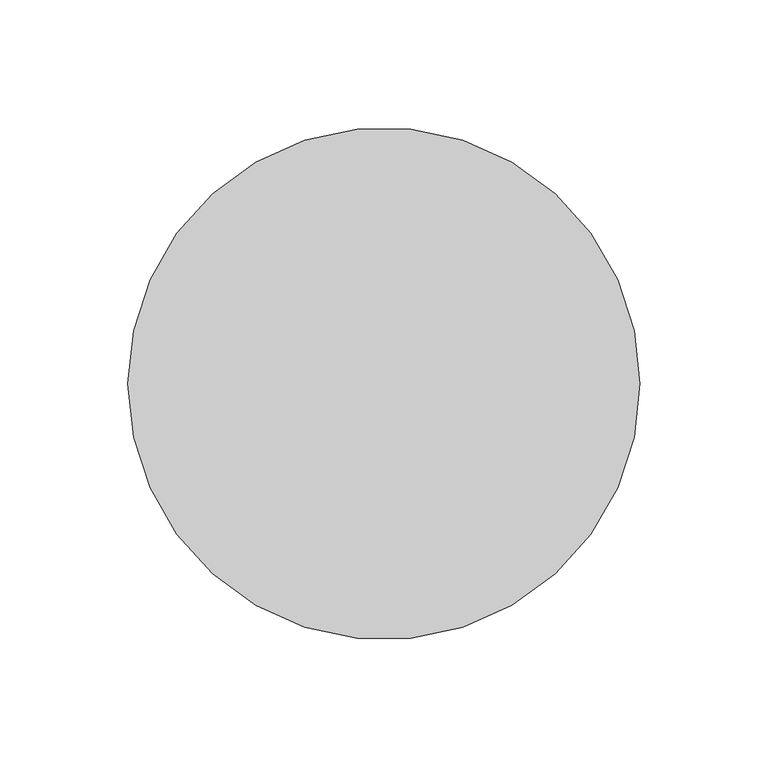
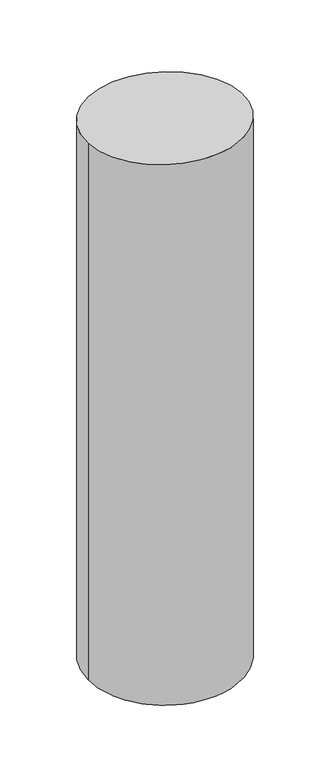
"""IFC4 building model written with IfcOpenShell, lengths in millimetres: member geometry, 矩形竖梃 : 圆瓦."""

from ifc_helpers import new_model, si_unit, frame, origin, origin_with_axes, place, context, project, spatial, circle_curve, ellipse_curve, source, transform, mapped, element, save
from ifc_brep_helpers import plane_surface, cylinder_surface, advanced_brep


def member_c9bd8968(model_context):
    return source(origin(), model_context, "Body", "AdvancedBrep", [
        advanced_brep(
        [(100.0, 0.0, -741.3270364), (-100.0, 0.0, -741.3270364), (-100.0, 0.0, 0.0), (100.0, 0.0, 0.0)],
        [
            (0, 1, circle_curve(frame((0.0, 0.0, -741.3270364), z_axis=(0.0, 0.0, -1.0), x_axis=(1.0, 0.0, 0.0)), 100.0)),
            (1, 0, circle_curve(frame((0.0, 0.0, -741.3270364), z_axis=(0.0, 0.0, -1.0), x_axis=(1.0, 0.0, 0.0)), 100.0)),
            (2, 3, ellipse_curve(frame((0.0, 0.0, 0.0), z_axis=(0.0, -0.06558371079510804, -0.9978470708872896), x_axis=(0.0, -0.9978470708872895, 0.06558371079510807)), 100.2157574, 100.0)),
            (3, 0),
            (1, 2),
            (3, 2, ellipse_curve(frame((0.0, 0.0, 0.0), z_axis=(0.0, -0.06558371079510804, -0.9978470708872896), x_axis=(0.0, -0.9978470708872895, 0.06558371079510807)), 100.2157574, 100.0)),
        ],
        [
            plane_surface(frame((0.0, -100.0, -741.3270364), z_axis=(0.0, 0.0, -1.0), x_axis=(-1.0, 0.0, 0.0))),
            cylinder_surface(origin_with_axes(), 100.0),
            plane_surface(frame((-304.8, 0.0, 0.0), z_axis=(0.0, 0.06558371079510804, 0.9978470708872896), x_axis=(0.0, 0.9978470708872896, -0.06558371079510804))),
        ],
        [
            (0, [[1, 2]]),
            (1, [[3, 4, -2, 5]]),
            (1, [[6, -5, -1, -4]]),
            (2, [[-3, -6]]),
        ],
    ),
    ])


if __name__ == "__main__":
    model = new_model("IFC4")
    model_context = context("Model", 3, world=origin())
    ifc_project = project(units=[si_unit("LENGTHUNIT", "METRE", prefix="MILLI")], contexts=[model_context])
    site = spatial("IfcSite", under=ifc_project)
    building = spatial("IfcBuilding", under=site)
    placement = place(None, origin())
    member_shape = member_c9bd8968(model_context)
    element("IfcMember", 1, ObjectType="矩形竖梃 : 圆瓦", at=placement, inside=building, context=model_context, shape_type="MappedRepresentation", body=[
        mapped(member_shape, transform((0.0, 0.0, 0.0), x_axis=(1.0, 0.0, 0.0), y_axis=(0.0, 1.0, 0.0), z_axis=(0.0, 0.0, 1.0))),
    ])
    save(model, "model.ifc")
